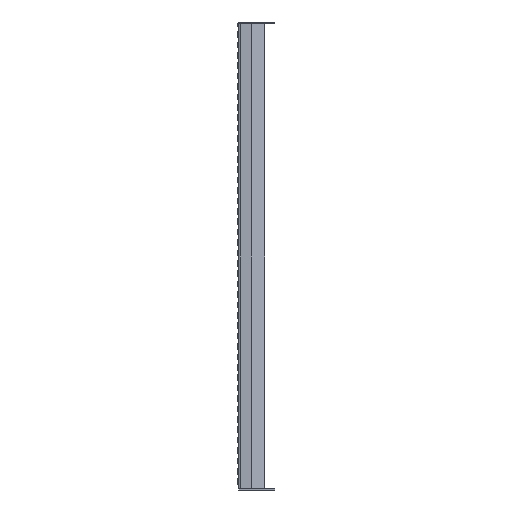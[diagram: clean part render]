
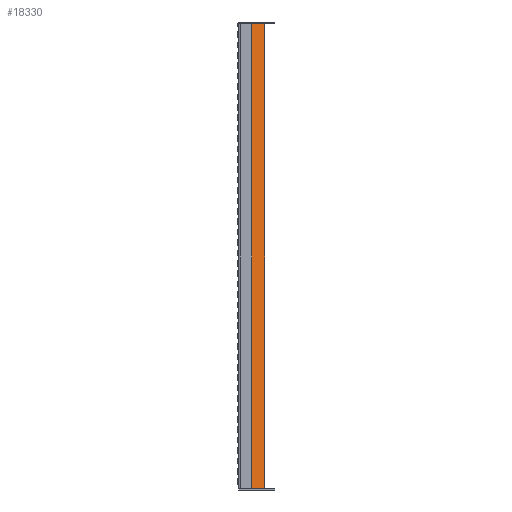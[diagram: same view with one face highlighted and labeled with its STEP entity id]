
A CAD part, left-side view. The second image highlights one B-rep face of the part: STEP entity #18330.
In plain terms, the highlighted planar face has unit normal (-0.94, -0.342, 0).
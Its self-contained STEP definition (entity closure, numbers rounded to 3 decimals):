
#2243=FACE_OUTER_BOUND('',#3548,.T.);
#3548=EDGE_LOOP('',(#14889,#14890,#14891,#14892));
#4803=LINE('',#32801,#6739);
#4822=LINE('',#32848,#6758);
#4824=LINE('',#32854,#6760);
#4828=LINE('',#32861,#6764);
#6739=VECTOR('',#23514,10.);
#6758=VECTOR('',#23557,10.);
#6760=VECTOR('',#23563,10.);
#6764=VECTOR('',#23571,10.);
#8784=VERTEX_POINT('',#32798);
#8785=VERTEX_POINT('',#32800);
#8801=VERTEX_POINT('',#32847);
#8803=VERTEX_POINT('',#32853);
#10920=EDGE_CURVE('',#8785,#8784,#4803,.T.);
#10944=EDGE_CURVE('',#8784,#8801,#4822,.T.);
#10947=EDGE_CURVE('',#8803,#8785,#4824,.T.);
#10951=EDGE_CURVE('',#8801,#8803,#4828,.T.);
#14889=ORIENTED_EDGE('',*,*,#10944,.T.);
#14890=ORIENTED_EDGE('',*,*,#10951,.T.);
#14891=ORIENTED_EDGE('',*,*,#10947,.T.);
#14892=ORIENTED_EDGE('',*,*,#10920,.T.);
#17217=PLANE('',#19970);
#18330=ADVANCED_FACE('',(#2243),#17217,.T.);
#19970=AXIS2_PLACEMENT_3D('',#32860,#23569,#23570);
#23514=DIRECTION('',(-0.342,0.94,0.));
#23557=DIRECTION('',(0.,0.,-1.));
#23563=DIRECTION('',(0.,0.,1.));
#23569=DIRECTION('center_axis',(-0.94,-0.342,0.));
#23570=DIRECTION('ref_axis',(0.,0.,1.));
#23571=DIRECTION('',(0.342,-0.94,0.));
#32798=CARTESIAN_POINT('',(0.196,-25.539,894.));
#32800=CARTESIAN_POINT('',(9.099,-50.,894.));
#32801=CARTESIAN_POINT('',(0.,-25.,894.));
#32847=CARTESIAN_POINT('',(0.196,-25.539,0.));
#32848=CARTESIAN_POINT('',(0.196,-25.539,0.));
#32853=CARTESIAN_POINT('',(9.099,-50.,0.));
#32854=CARTESIAN_POINT('',(9.099,-50.,0.));
#32860=CARTESIAN_POINT('Origin',(9.099,-50.,0.));
#32861=CARTESIAN_POINT('',(0.,-25.,0.));
